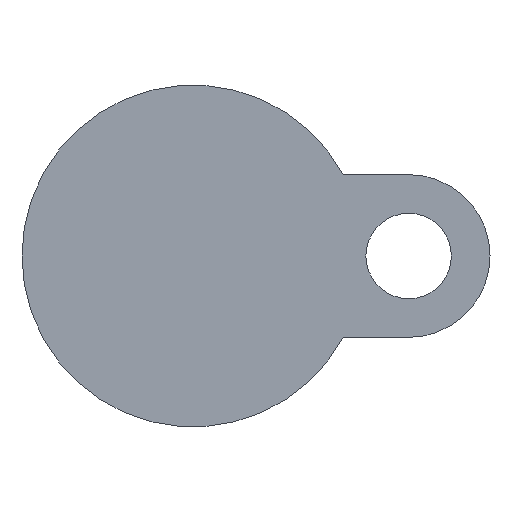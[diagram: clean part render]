
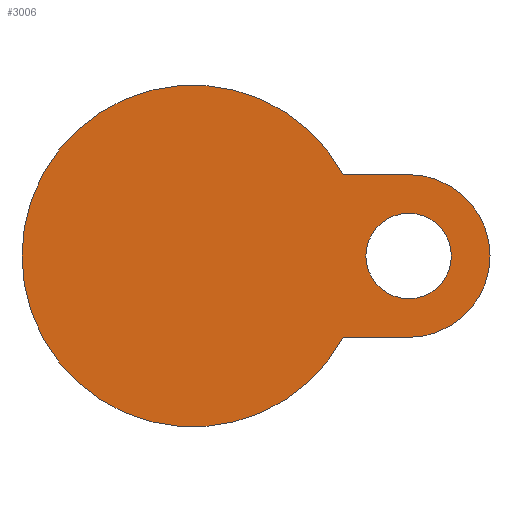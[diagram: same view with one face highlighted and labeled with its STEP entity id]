
A CAD part, front view. The second image highlights one B-rep face of the part: STEP entity #3006.
In plain terms, the highlighted planar face has unit normal (0, -1, 0).
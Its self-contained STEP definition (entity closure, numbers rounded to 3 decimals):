
#14 = DIRECTION ( 'NONE',  ( -1., 0., 0. ) ) ;
#296 = ORIENTED_EDGE ( 'NONE', *, *, #604, .F. ) ;
#346 = DIRECTION ( 'NONE',  ( -1., 0., 0. ) ) ;
#477 = CARTESIAN_POINT ( 'NONE',  ( -21., -12., 0. ) ) ;
#507 = CIRCLE ( 'NONE', #4737, 21. ) ;
#537 = CARTESIAN_POINT ( 'NONE',  ( 26.5, -12., 0. ) ) ;
#604 = EDGE_CURVE ( 'NONE', #5075, #705, #889, .T. ) ;
#705 = VERTEX_POINT ( 'NONE', #1205 ) ;
#749 = DIRECTION ( 'NONE',  ( 1., 0., 0. ) ) ;
#763 = ORIENTED_EDGE ( 'NONE', *, *, #3512, .F. ) ;
#798 = ORIENTED_EDGE ( 'NONE', *, *, #3604, .F. ) ;
#803 = EDGE_CURVE ( 'NONE', #2948, #5075, #4083, .T. ) ;
#889 = LINE ( 'NONE', #1694, #2320 ) ;
#912 = EDGE_CURVE ( 'NONE', #2037, #2948, #5363, .T. ) ;
#975 = VERTEX_POINT ( 'NONE', #5387 ) ;
#1072 = CARTESIAN_POINT ( 'NONE',  ( 0., -12., 0. ) ) ;
#1197 = EDGE_CURVE ( 'NONE', #975, #2421, #3215, .T. ) ;
#1205 = CARTESIAN_POINT ( 'NONE',  ( 18.466, -12., -10. ) ) ;
#1694 = CARTESIAN_POINT ( 'NONE',  ( 26.5, -12., -10. ) ) ;
#1953 = FACE_OUTER_BOUND ( 'NONE', #3888, .T. ) ;
#2037 = VERTEX_POINT ( 'NONE', #3582 ) ;
#2100 = AXIS2_PLACEMENT_3D ( 'NONE', #537, #3052, #3437 ) ;
#2101 = CARTESIAN_POINT ( 'NONE',  ( 31.75, -12., 0. ) ) ;
#2103 = CARTESIAN_POINT ( 'NONE',  ( 0., -12., 0. ) ) ;
#2255 = DIRECTION ( 'NONE',  ( 1., 0., 0. ) ) ;
#2320 = VECTOR ( 'NONE', #14, 1000. ) ;
#2343 = CARTESIAN_POINT ( 'NONE',  ( 26.5, -12., 0. ) ) ;
#2370 = AXIS2_PLACEMENT_3D ( 'NONE', #1072, #2750, #3251 ) ;
#2421 = VERTEX_POINT ( 'NONE', #2101 ) ;
#2505 = AXIS2_PLACEMENT_3D ( 'NONE', #2343, #3059, #2255 ) ;
#2532 = ORIENTED_EDGE ( 'NONE', *, *, #912, .F. ) ;
#2598 = CARTESIAN_POINT ( 'NONE',  ( 26.5, -12., 0. ) ) ;
#2679 = DIRECTION ( 'NONE',  ( 1., 0., 0. ) ) ;
#2726 = AXIS2_PLACEMENT_3D ( 'NONE', #5006, #2900, #4633 ) ;
#2750 = DIRECTION ( 'NONE',  ( 0., -1., 0. ) ) ;
#2857 = FACE_BOUND ( 'NONE', #4162, .T. ) ;
#2874 = DIRECTION ( 'NONE',  ( 0., 1., 0. ) ) ;
#2900 = DIRECTION ( 'NONE',  ( 0., 1., 0. ) ) ;
#2948 = VERTEX_POINT ( 'NONE', #4763 ) ;
#3006 = ADVANCED_FACE ( 'NONE', ( #1953, #2857 ), #3630, .T. ) ;
#3052 = DIRECTION ( 'NONE',  ( 0., 1., 0. ) ) ;
#3059 = DIRECTION ( 'NONE',  ( 0., 1., 0. ) ) ;
#3119 = VECTOR ( 'NONE', #749, 1000. ) ;
#3215 = CIRCLE ( 'NONE', #2505, 5.25 ) ;
#3251 = DIRECTION ( 'NONE',  ( 1., 0., 0. ) ) ;
#3333 = CIRCLE ( 'NONE', #2100, 5.25 ) ;
#3437 = DIRECTION ( 'NONE',  ( 1., 0., 0. ) ) ;
#3512 = EDGE_CURVE ( 'NONE', #5218, #2037, #507, .T. ) ;
#3582 = CARTESIAN_POINT ( 'NONE',  ( 18.466, -12., 10. ) ) ;
#3604 = EDGE_CURVE ( 'NONE', #705, #5218, #4916, .T. ) ;
#3630 = PLANE ( 'NONE',  #2370 ) ;
#3709 = CARTESIAN_POINT ( 'NONE',  ( 26.5, -12., -10. ) ) ;
#3888 = EDGE_LOOP ( 'NONE', ( #2532, #763, #798, #296, #4008 ) ) ;
#3991 = AXIS2_PLACEMENT_3D ( 'NONE', #2598, #4369, #2679 ) ;
#4008 = ORIENTED_EDGE ( 'NONE', *, *, #803, .F. ) ;
#4083 = CIRCLE ( 'NONE', #3991, 10. ) ;
#4162 = EDGE_LOOP ( 'NONE', ( #4298, #5171 ) ) ;
#4298 = ORIENTED_EDGE ( 'NONE', *, *, #1197, .T. ) ;
#4369 = DIRECTION ( 'NONE',  ( 0., 1., 0. ) ) ;
#4633 = DIRECTION ( 'NONE',  ( -1., 0., 0. ) ) ;
#4737 = AXIS2_PLACEMENT_3D ( 'NONE', #2103, #2874, #346 ) ;
#4763 = CARTESIAN_POINT ( 'NONE',  ( 26.5, -12., 10. ) ) ;
#4840 = EDGE_CURVE ( 'NONE', #2421, #975, #3333, .T. ) ;
#4916 = CIRCLE ( 'NONE', #2726, 21. ) ;
#4953 = CARTESIAN_POINT ( 'NONE',  ( 11.159, -12., 10. ) ) ;
#5006 = CARTESIAN_POINT ( 'NONE',  ( 0., -12., 0. ) ) ;
#5075 = VERTEX_POINT ( 'NONE', #3709 ) ;
#5171 = ORIENTED_EDGE ( 'NONE', *, *, #4840, .T. ) ;
#5218 = VERTEX_POINT ( 'NONE', #477 ) ;
#5363 = LINE ( 'NONE', #4953, #3119 ) ;
#5387 = CARTESIAN_POINT ( 'NONE',  ( 21.25, -12., 0. ) ) ;
